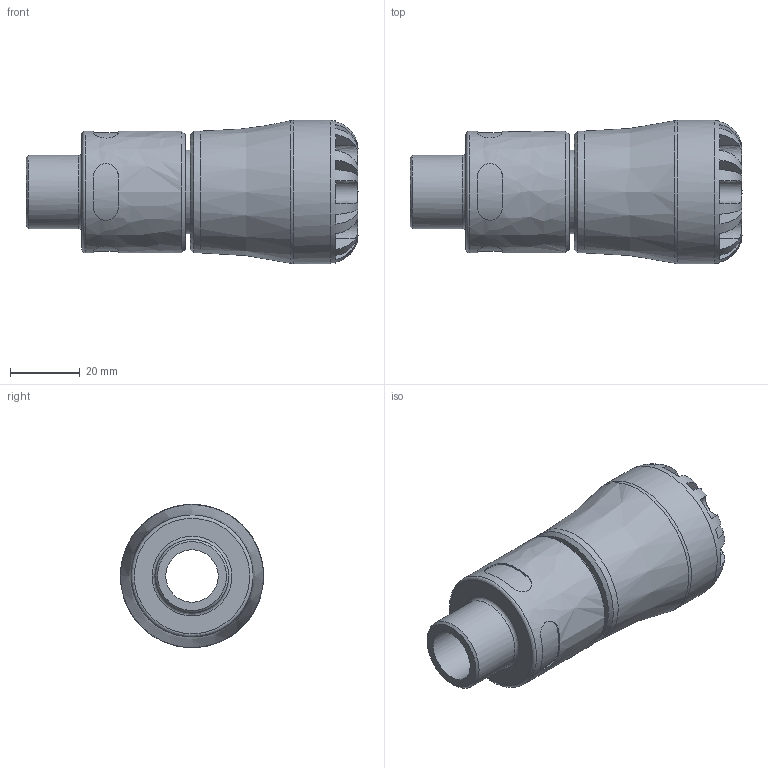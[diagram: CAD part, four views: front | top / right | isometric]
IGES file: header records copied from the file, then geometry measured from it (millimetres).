
Global section: file name: 10N200020005_10N2G0020005; native system: Autodesk Inventor 2019; preprocessor: unknown; author: KIM; date: 20240312.131856; units: millimetre
Bounding box: 95 x 41 x 40.97 mm (x, y, z)
Volume: 63093.4 mm3; surface area: 18862.5 mm2
Topology: 1 solids, 1 shells, 106 faces, 279 edges, 182 vertices
Faces by surface type: bspline 106
